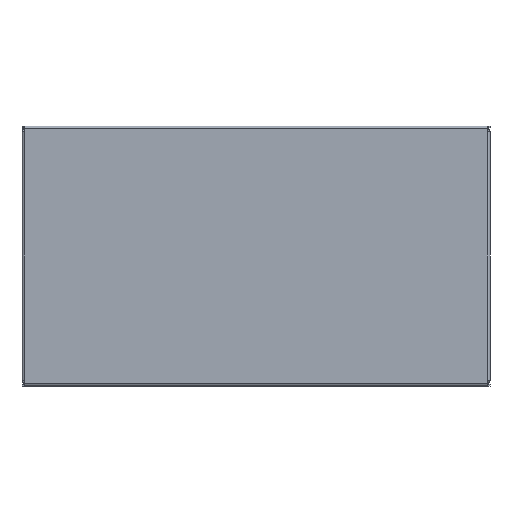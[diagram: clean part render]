
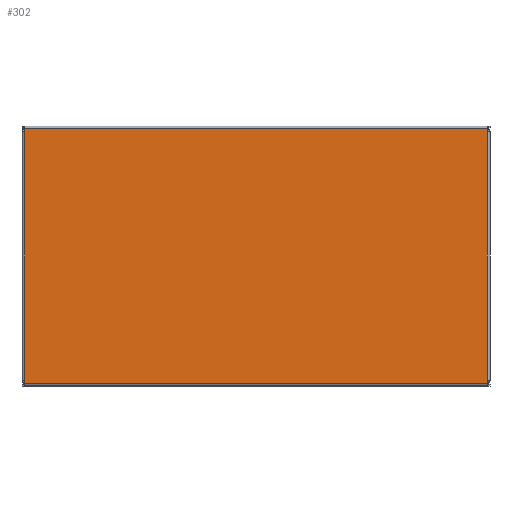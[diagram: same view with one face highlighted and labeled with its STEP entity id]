
A CAD part, front view. The second image highlights one B-rep face of the part: STEP entity #302.
In plain terms, the highlighted planar face has unit normal (0, -1, 0) as drawn and (0, 0, -1) by its records, which use the part's own axes.
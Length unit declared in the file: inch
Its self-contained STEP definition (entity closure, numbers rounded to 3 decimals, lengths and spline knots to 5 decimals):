
#231=CARTESIAN_POINT('',(-2.5,4.5,0.0));
#232=DIRECTION('',(0.0,0.0,-1.0));
#233=DIRECTION('',(-1.0,0.0,0.0));
#234=AXIS2_PLACEMENT_3D('',#231,#232,#233);
#235=PLANE('',#234);
#236=CARTESIAN_POINT('',(2.446,4.446,0.0));
#237=VERTEX_POINT('',#236);
#238=CARTESIAN_POINT('',(2.446,-4.446,0.0));
#239=VERTEX_POINT('',#238);
#240=CARTESIAN_POINT('',(2.446,4.446,0.0));
#241=DIRECTION('',(0.0,-1.0,0.0));
#242=VECTOR('',#241,8.892);
#243=LINE('',#240,#242);
#244=EDGE_CURVE('',#237,#239,#243,.T.);
#245=ORIENTED_EDGE('',*,*,#244,.T.);
#246=CARTESIAN_POINT('',(2.392,-4.446,0.0));
#247=VERTEX_POINT('',#246);
#248=CARTESIAN_POINT('',(2.446,-4.446,0.0));
#249=DIRECTION('',(-1.0,0.0,0.0));
#250=VECTOR('',#249,0.054);
#251=LINE('',#248,#250);
#252=EDGE_CURVE('',#239,#247,#251,.T.);
#253=ORIENTED_EDGE('',*,*,#252,.T.);
#254=CARTESIAN_POINT('',(-2.392,-4.446,0.0));
#255=VERTEX_POINT('',#254);
#256=CARTESIAN_POINT('',(2.392,-4.446,0.0));
#257=DIRECTION('',(-1.0,0.0,0.0));
#258=VECTOR('',#257,4.784);
#259=LINE('',#256,#258);
#260=EDGE_CURVE('',#247,#255,#259,.T.);
#261=ORIENTED_EDGE('',*,*,#260,.T.);
#262=CARTESIAN_POINT('',(-2.446,-4.446,0.0));
#263=VERTEX_POINT('',#262);
#264=CARTESIAN_POINT('',(-2.392,-4.446,0.0));
#265=DIRECTION('',(-1.0,0.0,0.0));
#266=VECTOR('',#265,0.054);
#267=LINE('',#264,#266);
#268=EDGE_CURVE('',#255,#263,#267,.T.);
#269=ORIENTED_EDGE('',*,*,#268,.T.);
#270=CARTESIAN_POINT('',(-2.446,4.446,0.0));
#271=VERTEX_POINT('',#270);
#272=CARTESIAN_POINT('',(-2.446,-4.446,0.0));
#273=DIRECTION('',(0.0,1.0,0.0));
#274=VECTOR('',#273,8.892);
#275=LINE('',#272,#274);
#276=EDGE_CURVE('',#263,#271,#275,.T.);
#277=ORIENTED_EDGE('',*,*,#276,.T.);
#278=CARTESIAN_POINT('',(-2.392,4.446,0.0));
#279=VERTEX_POINT('',#278);
#280=CARTESIAN_POINT('',(-2.446,4.446,0.0));
#281=DIRECTION('',(1.0,0.0,0.0));
#282=VECTOR('',#281,0.054);
#283=LINE('',#280,#282);
#284=EDGE_CURVE('',#271,#279,#283,.T.);
#285=ORIENTED_EDGE('',*,*,#284,.T.);
#286=CARTESIAN_POINT('',(2.392,4.446,0.0));
#287=VERTEX_POINT('',#286);
#288=CARTESIAN_POINT('',(-2.392,4.446,0.0));
#289=DIRECTION('',(1.0,0.0,0.0));
#290=VECTOR('',#289,4.784);
#291=LINE('',#288,#290);
#292=EDGE_CURVE('',#279,#287,#291,.T.);
#293=ORIENTED_EDGE('',*,*,#292,.T.);
#294=CARTESIAN_POINT('',(2.392,4.446,0.0));
#295=DIRECTION('',(1.0,0.0,0.0));
#296=VECTOR('',#295,0.054);
#297=LINE('',#294,#296);
#298=EDGE_CURVE('',#287,#237,#297,.T.);
#299=ORIENTED_EDGE('',*,*,#298,.T.);
#300=EDGE_LOOP('',(#245,#253,#261,#269,#277,#285,#293,#299));
#301=FACE_OUTER_BOUND('',#300,.T.);
#302=ADVANCED_FACE('',(#301),#235,.T.);
